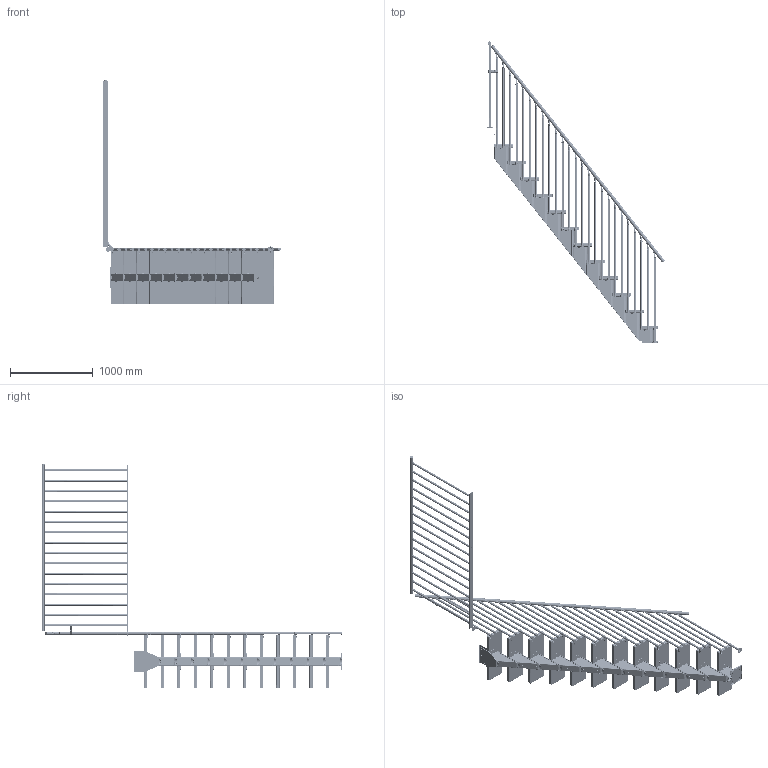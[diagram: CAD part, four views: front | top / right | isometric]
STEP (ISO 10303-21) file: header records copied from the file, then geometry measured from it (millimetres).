
FILE_DESCRIPTION (( 'STEP AP214' ), '1' );
FILE_NAME ('5493 - FRANKFURT ligeløb CLASSIC III gelænder.STEP', '2021-09-03T09:51:39', ( '' ), ( '' ), 'SwSTEP 2.0', 'SolidWorks 2019', '' );
FILE_SCHEMA (( 'AUTOMOTIVE_DESIGN' ));
Length unit declared in the file: millimetre
Products named in the file (171): K2-1077195_K2-1077197; K1-1077002; MIDTERBALUSTER^5066778; K2-1077025_K2-1077027; K2-1077425_K2-1077427; K3-02016_M5x12 DIN 912; 1077480-01_03; K1-08310-02; K1-1077411; K3-06027; K2-1077030_K2-1077032; K3-10226; K1-1077400_K1-1077402; 1078905; K3-02009_K3-02009; K1-1077208; K1-40561; K2-1077675-1_K1-1077677; K1-01040; K1-1077209; K2-1077420_K2-1077422; K3-06022_K3-06022; K1-34030; 1077675-1_1077677; K3-08002; R1-63500_R1-63500; K3-03008_M8-ISO4034_Simpel; 5066778_03; M2-1078301; K1-1077677-1; K1-1077070_K1-1077072; M2-1078905; K3-05004_K3-05004; K3-06130; 5493 - FRANKFURT ligeløb CLASSIC III gelænder; M2-1078300; K1-1077165_K1-1077167; K2-1077430_K2-1077432; H2-20506; K2-1077155_K2-1077157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
Assembly tree (509 placements, depth 5):
  K3-08002
  5493 - FRANKFURT ligeløb CLASSIC III gelænder
    5066778_03
      1077480-01_03
        K2-1077420_K2-1077422
          K1-34031
          K1-34030
          K1-1077002
        K2-1077425_K2-1077427
          K1-34031
          K1-34030
        K2-1077425_K2-1077427
          K1-34031
          K1-34030
        K2-1077425_K2-1077427
          K1-34031
          K1-34030
        K2-1077425_K2-1077427
          K1-34031
          K1-34030
        K2-1077425_K2-1077427
          K1-34031
          K1-34030
        K2-1077425_K2-1077427
          K1-34031
          K1-34030
        K2-1077425_K2-1077427
          K1-34031
          K1-34030
        K2-1077425_K2-1077427
          K1-34031
          K1-34030
        K2-1077425_K2-1077427
          K1-34031
          K1-34030
        K2-1077425_K2-1077427
          K1-34031
          K1-34030
        K2-1077430_K2-1077432
          K1-34021
          K1-34020___
          K1-1077411
        K2-1077440_K2-1077442
          K1-34010
          K1-34011
        K1-1077400_K1-1077402
        K1-1077070_K1-1077072
        H2-20505  x11
        H2-20506  x11
        R1-63500_R1-63500  x11
        K3-04053_K3-04053  x12
        K3-03021_ISO4032
      M2-1078300
      M2-1078301  x11
      K2-1077030_K2-1077032
        K1-40562_Default<As Machined>
        K1-40560
      K2-1077025_K2-1077027
        K1-40560
        K1-40561
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Bounding box: 2149.51 x 3642.16 x 2720 mm (x, y, z)
Volume: 89844348.4 mm3; surface area: 16436834.2 mm2
Topology: 413 solids, 413 shells, 12123 faces, 28233 edges, 16987 vertices
Faces by surface type: plane 4247, cylinder 4055, torus 1410, cone 1394, bspline 829, sphere 188
Entity records: 79978 total; most frequent: CARTESIAN_POINT 25214, DIRECTION 11122, ORIENTED_EDGE 9550, EDGE_CURVE 4775, AXIS2_PLACEMENT_3D 4528, VERTEX_POINT 2974, EDGE_LOOP 2209, VECTOR 2066
